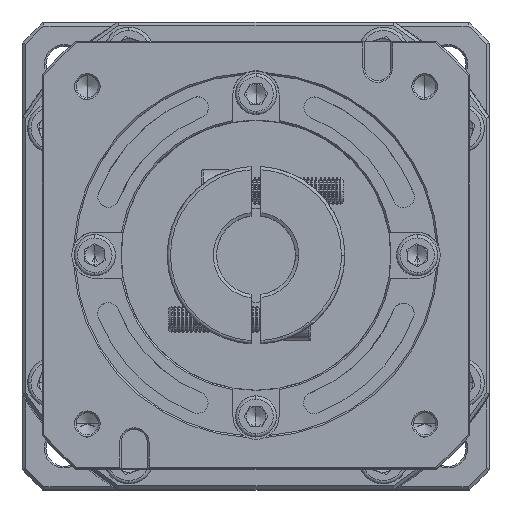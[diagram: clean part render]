
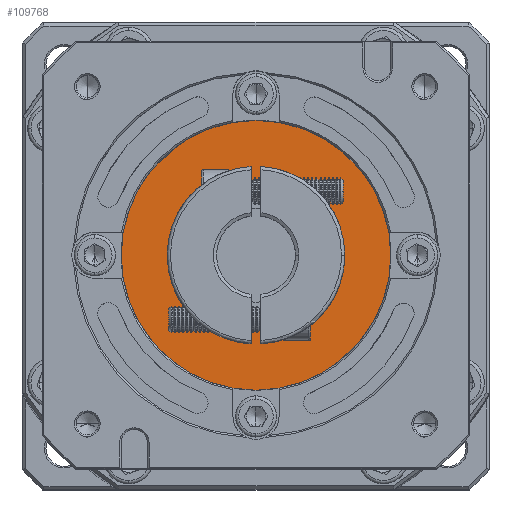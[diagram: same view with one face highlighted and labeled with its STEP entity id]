
A CAD part, top view. The second image highlights one B-rep face of the part: STEP entity #109768.
In plain terms, the highlighted planar face has unit normal (0, 0, 1).
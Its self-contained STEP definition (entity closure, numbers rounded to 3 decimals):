
#408 = ORIENTED_EDGE ( 'NONE', *, *, #35736, .T. ) ;
#8544 = ORIENTED_EDGE ( 'NONE', *, *, #133307, .T. ) ;
#14248 = EDGE_LOOP ( 'NONE', ( #8544, #408 ) ) ;
#15339 = CIRCLE ( 'NONE', #131786, 41. ) ;
#19907 = CIRCLE ( 'NONE', #118707, 20. ) ;
#25002 = EDGE_CURVE ( 'NONE', #88235, #95964, #15339, .T. ) ;
#26359 = DIRECTION ( 'NONE',  ( 0., 0., 1. ) ) ;
#29894 = CARTESIAN_POINT ( 'NONE',  ( -121.716, 61.31, -33.645 ) ) ;
#35736 = EDGE_CURVE ( 'NONE', #124402, #41824, #19907, .T. ) ;
#37772 = ORIENTED_EDGE ( 'NONE', *, *, #25002, .T. ) ;
#40192 = AXIS2_PLACEMENT_3D ( 'NONE', #103725, #26359, #92693 ) ;
#41824 = VERTEX_POINT ( 'NONE', #120507 ) ;
#43313 = CIRCLE ( 'NONE', #100743, 20. ) ;
#46930 = DIRECTION ( 'NONE',  ( 0., 0., -1. ) ) ;
#54742 = DIRECTION ( 'NONE',  ( 0., 1., 0. ) ) ;
#56043 = FACE_OUTER_BOUND ( 'NONE', #67543, .T. ) ;
#56451 = DIRECTION ( 'NONE',  ( 0., 0., 1. ) ) ;
#65707 = DIRECTION ( 'NONE',  ( 0., 1., 0. ) ) ;
#65776 = DIRECTION ( 'NONE',  ( 0., 0., 1. ) ) ;
#66178 = DIRECTION ( 'NONE',  ( 0., 0., -1. ) ) ;
#67543 = EDGE_LOOP ( 'NONE', ( #84299, #37772 ) ) ;
#68411 = CARTESIAN_POINT ( 'NONE',  ( -121.716, 81.31, -33.645 ) ) ;
#84299 = ORIENTED_EDGE ( 'NONE', *, *, #104176, .T. ) ;
#86914 = FACE_BOUND ( 'NONE', #14248, .T. ) ;
#88235 = VERTEX_POINT ( 'NONE', #141142 ) ;
#92693 = DIRECTION ( 'NONE',  ( 0., 1., 0. ) ) ;
#95964 = VERTEX_POINT ( 'NONE', #130462 ) ;
#97148 = CIRCLE ( 'NONE', #40192, 41. ) ;
#98364 = DIRECTION ( 'NONE',  ( 0., 1., 0. ) ) ;
#100743 = AXIS2_PLACEMENT_3D ( 'NONE', #131663, #66178, #65707 ) ;
#103725 = CARTESIAN_POINT ( 'NONE',  ( -121.716, 81.31, -33.645 ) ) ;
#104176 = EDGE_CURVE ( 'NONE', #95964, #88235, #97148, .T. ) ;
#109768 = ADVANCED_FACE ( 'NONE', ( #56043, #86914 ), #134399, .T. ) ;
#113173 = DIRECTION ( 'NONE',  ( 0., 1., 0. ) ) ;
#117328 = CARTESIAN_POINT ( 'NONE',  ( -121.716, 81.31, -33.645 ) ) ;
#118707 = AXIS2_PLACEMENT_3D ( 'NONE', #123958, #46930, #98364 ) ;
#120329 = AXIS2_PLACEMENT_3D ( 'NONE', #68411, #56451, #113173 ) ;
#120507 = CARTESIAN_POINT ( 'NONE',  ( -121.716, 101.31, -33.645 ) ) ;
#123958 = CARTESIAN_POINT ( 'NONE',  ( -121.716, 81.31, -33.645 ) ) ;
#124402 = VERTEX_POINT ( 'NONE', #29894 ) ;
#130462 = CARTESIAN_POINT ( 'NONE',  ( -121.716, 122.31, -33.645 ) ) ;
#131663 = CARTESIAN_POINT ( 'NONE',  ( -121.716, 81.31, -33.645 ) ) ;
#131786 = AXIS2_PLACEMENT_3D ( 'NONE', #117328, #65776, #54742 ) ;
#133307 = EDGE_CURVE ( 'NONE', #41824, #124402, #43313, .T. ) ;
#134399 = PLANE ( 'NONE',  #120329 ) ;
#141142 = CARTESIAN_POINT ( 'NONE',  ( -121.716, 40.31, -33.645 ) ) ;
